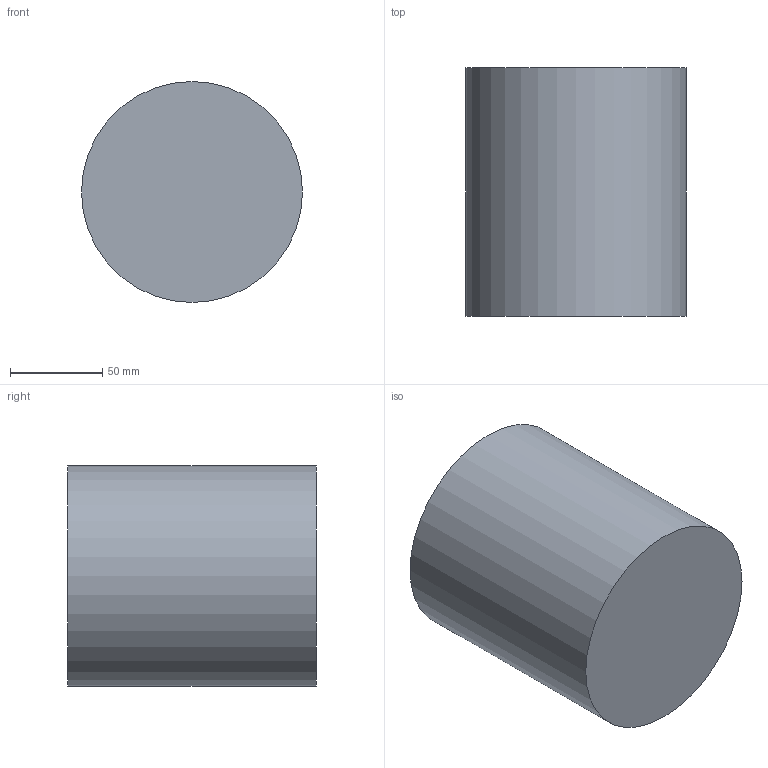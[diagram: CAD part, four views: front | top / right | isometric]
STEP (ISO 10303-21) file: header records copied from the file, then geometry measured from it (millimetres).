
FILE_DESCRIPTION(('Open CASCADE Model'),'2;1');
FILE_NAME('Open CASCADE Shape Model','2026-10-10T15:34:57',('Author'),( 'Open CASCADE'),'Open CASCADE STEP processor 7.9','Open CASCADE 7.9' ,'Unknown');
FILE_SCHEMA(('AUTOMOTIVE_DESIGN { 1 0 10303 214 1 1 1 1 }'));
Length unit declared in the file: millimetre
Products named in the file (1): Open CASCADE STEP translator 7.9 7
Bounding box: 120 x 135 x 120 mm (x, y, z)
Volume: 1526814 mm3; surface area: 73513.3 mm2
Topology: 1 solids, 1 shells, 3 faces, 3 edges, 2 vertices
Faces by surface type: plane 2, cylinder 1
Full cylindrical faces by diameter (mm): 120 x1
Entity records: 108 total; most frequent: DIRECTION 19, CARTESIAN_POINT 15, AXIS2_PLACEMENT_3D 6, ORIENTED_EDGE 6, PCURVE 6, DEFINITIONAL_REPRESENTATION 6, LINE 5, VECTOR 5
